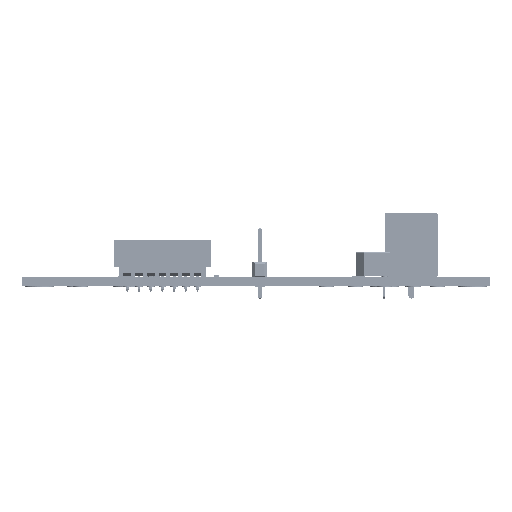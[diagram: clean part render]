
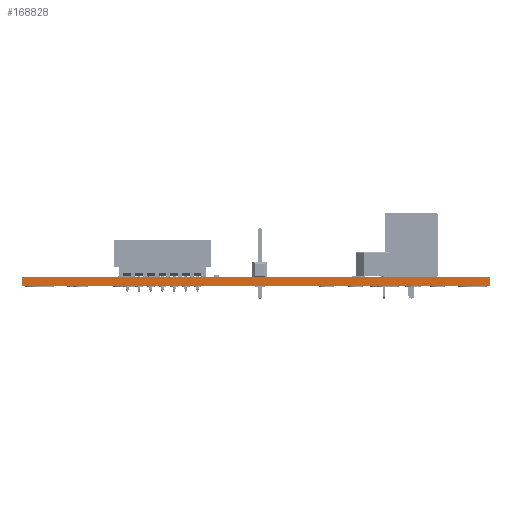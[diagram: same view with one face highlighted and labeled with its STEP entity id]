
A CAD part, left-side view. The second image highlights one B-rep face of the part: STEP entity #168828.
In plain terms, the highlighted planar face has unit normal (-1, 0, 0).
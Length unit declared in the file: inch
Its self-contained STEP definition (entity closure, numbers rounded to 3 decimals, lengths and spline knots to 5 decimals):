
#6472 = DIRECTION ( 'NONE',  ( 0., -1., 0. ) ) ;
#12481 = DIRECTION ( 'NONE',  ( 0., 0., 1. ) ) ;
#18786 = CARTESIAN_POINT ( 'NONE',  ( -0.11811, 3.0315, -0.062 ) ) ;
#38612 = EDGE_LOOP ( 'NONE', ( #237475, #78764, #268752, #118573 ) ) ;
#39155 = CARTESIAN_POINT ( 'NONE',  ( -0.11811, -0.11811, 0. ) ) ;
#45672 = EDGE_CURVE ( 'NONE', #115479, #152107, #106086, .T. ) ;
#49900 = VECTOR ( 'NONE', #139408, 39.37008 ) ;
#75466 = CARTESIAN_POINT ( 'NONE',  ( -0.11811, 3.0315, 0. ) ) ;
#78764 = ORIENTED_EDGE ( 'NONE', *, *, #45672, .F. ) ;
#80987 = VERTEX_POINT ( 'NONE', #243366 ) ;
#85625 = VECTOR ( 'NONE', #272321, 39.37008 ) ;
#86918 = PLANE ( 'NONE',  #151431 ) ;
#106086 = LINE ( 'NONE', #180043, #49900 ) ;
#110288 = VECTOR ( 'NONE', #6472, 39.37008 ) ;
#115479 = VERTEX_POINT ( 'NONE', #123527 ) ;
#118573 = ORIENTED_EDGE ( 'NONE', *, *, #204983, .T. ) ;
#123527 = CARTESIAN_POINT ( 'NONE',  ( -0.11811, 3.0315, -0.062 ) ) ;
#126778 = CARTESIAN_POINT ( 'NONE',  ( -0.11811, 3.0315, -0.062 ) ) ;
#132974 = VECTOR ( 'NONE', #12481, 39.37008 ) ;
#139408 = DIRECTION ( 'NONE',  ( 0., 0., 1. ) ) ;
#151431 = AXIS2_PLACEMENT_3D ( 'NONE', #126778, #212683, #192256 ) ;
#152107 = VERTEX_POINT ( 'NONE', #75466 ) ;
#153432 = VERTEX_POINT ( 'NONE', #39155 ) ;
#158310 = LINE ( 'NONE', #18786, #85625 ) ;
#168828 = ADVANCED_FACE ( 'NONE', ( #197679 ), #86918, .T. ) ;
#174984 = CARTESIAN_POINT ( 'NONE',  ( -0.11811, 3.0315, 0. ) ) ;
#180043 = CARTESIAN_POINT ( 'NONE',  ( -0.11811, 3.0315, -0.062 ) ) ;
#192256 = DIRECTION ( 'NONE',  ( 0., 0., 1. ) ) ;
#197679 = FACE_OUTER_BOUND ( 'NONE', #38612, .T. ) ;
#204983 = EDGE_CURVE ( 'NONE', #80987, #153432, #225443, .T. ) ;
#208541 = EDGE_CURVE ( 'NONE', #115479, #80987, #158310, .T. ) ;
#212683 = DIRECTION ( 'NONE',  ( -1., 0., 0. ) ) ;
#225443 = LINE ( 'NONE', #244749, #132974 ) ;
#229412 = LINE ( 'NONE', #174984, #110288 ) ;
#237475 = ORIENTED_EDGE ( 'NONE', *, *, #270166, .F. ) ;
#243366 = CARTESIAN_POINT ( 'NONE',  ( -0.11811, -0.11811, -0.062 ) ) ;
#244749 = CARTESIAN_POINT ( 'NONE',  ( -0.11811, -0.11811, -0.062 ) ) ;
#268752 = ORIENTED_EDGE ( 'NONE', *, *, #208541, .T. ) ;
#270166 = EDGE_CURVE ( 'NONE', #152107, #153432, #229412, .T. ) ;
#272321 = DIRECTION ( 'NONE',  ( 0., -1., 0. ) ) ;
